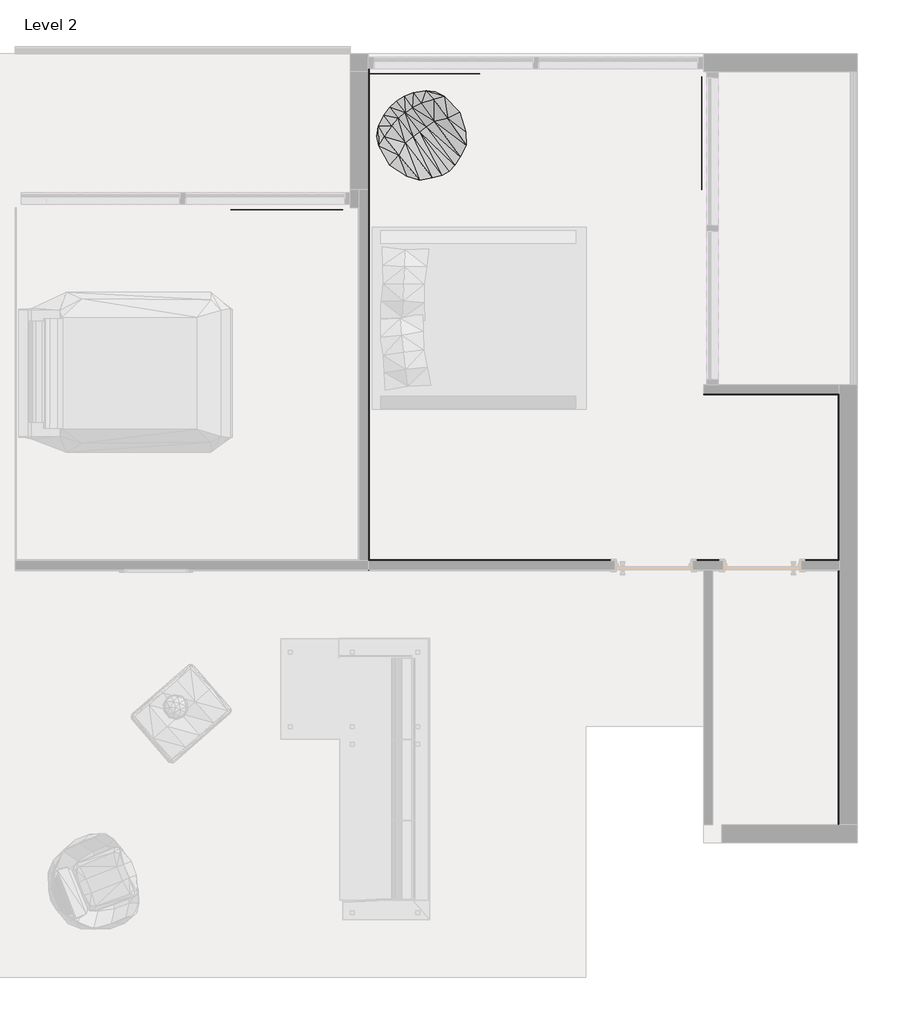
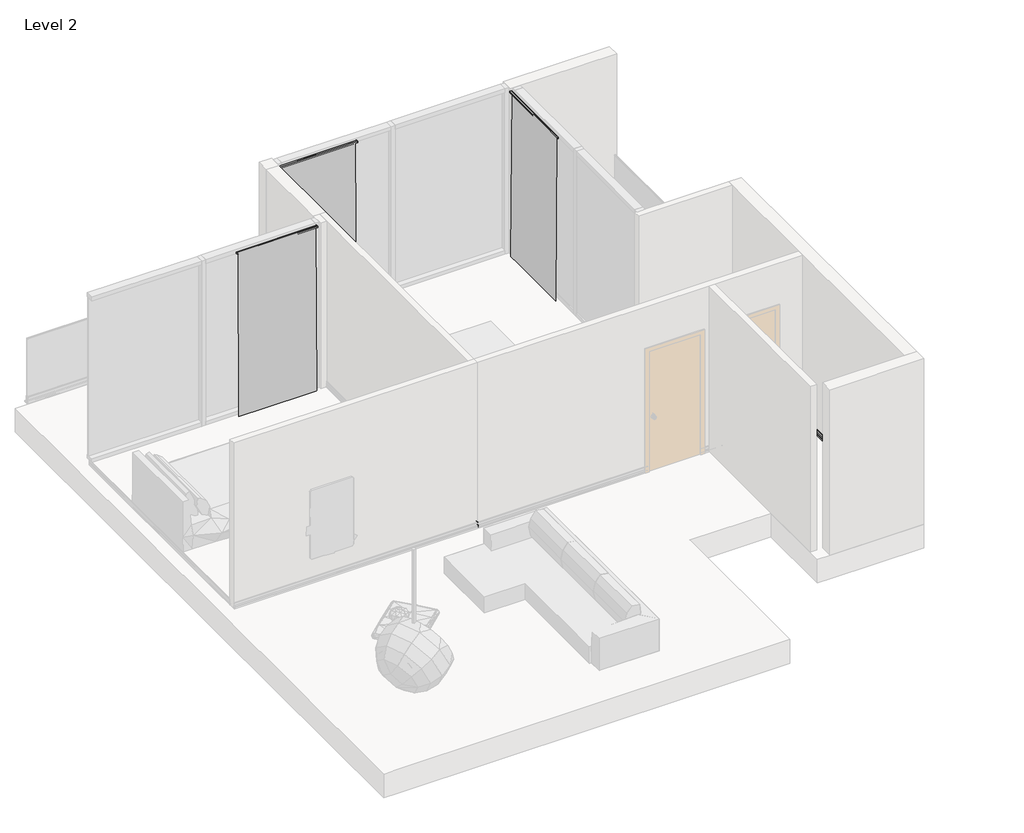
# One storey, part 4 of 4: 4 geographic elements, 1 proxy.
"""IFC4 building model written with IfcOpenShell, lengths in millimetres."""

from ifc_helpers import new_model, si_unit, frame, origin, place, context, project, spatial, polyline, circle_curve, ellipse_curve, transform, mapped, element, save
from ifc_brep_helpers import plane_surface, cylinder_surface, revolved_surface, advanced_brep
from components import enscape_assetdefinition_armchair_040_enscape_assetdefinition_4bf14610, enscape_assetdefinition_curtain_001_enscape_assetdefinition_ad6f74d6

model = new_model("IFC4")

# Units and contexts
model_context = context("Model", 3, world=origin())
ifc_project = project(units=[si_unit("LENGTHUNIT", "METRE", prefix="MILLI")], contexts=[model_context])

# Site, building, storey
site = spatial("IfcSite", under=ifc_project)
building = spatial("IfcBuilding", under=site)
storey = spatial("IfcBuildingStorey", under=building, Name="Level 2", Elevation=4200.0)

# Proxy
placement = place(None, origin())
element("IfcBuildingElementProxy", 1, Name="Brick Soldier Course", ObjectType="Brick Soldier Course", at=placement, inside=storey, context=model_context, shape_type="AdvancedBrep", body=[
    advanced_brep(
    [(20843.1337784, 13166.9206658, 4300.0), (20843.1337784, 13167.9173933, 4300.0), (20843.1337784, 13171.9206658, 4295.9967275), (20843.1337784, 13171.9206658, 4291.4365579), (20843.1337784, 13170.4841079, 4290.0), (20843.1337784, 13169.4089393, 4290.0), (20843.1337784, 13169.4089393, 4250.0), (20843.1337784, 13172.9089393, 4250.0), (20843.1337784, 13174.4089393, 4248.5), (20843.1337784, 13174.4089393, 4226.451226), (20843.1337784, 13172.9577133, 4225.0), (20843.1337784, 13171.9206658, 4225.0), (20843.1337784, 13171.9206658, 4217.9313406), (20843.1337784, 13173.1881701, 4217.9313406), (20843.1337784, 13174.5529179, 4216.7363778), (20843.1337784, 13180.0484939, 4200.0), (20843.1337784, 13166.9206658, 4200.0), (23561.3337784, 13166.9206658, 4300.0), (23561.3337784, 13166.9206658, 4200.0), (23561.3337784, 13180.0484939, 4200.0), (23561.3337784, 13174.5529179, 4216.7363778), (23561.3337784, 13173.1881701, 4217.9313406), (23561.3337784, 13171.9206658, 4217.9313406), (23561.3337784, 13171.9206658, 4225.0), (23561.3337784, 13172.9577133, 4225.0), (23561.3337784, 13174.4089393, 4226.451226), (23561.3337784, 13174.4089393, 4248.5), (23561.3337784, 13172.9089393, 4250.0), (23561.3337784, 13169.4089393, 4250.0), (23561.3337784, 13169.4089393, 4290.0), (23561.3337784, 13170.4841079, 4290.0), (23561.3337784, 13171.9206658, 4291.4365579), (23561.3337784, 13171.9206658, 4295.9967275), (23561.3337784, 13167.9173933, 4300.0)],
    [
        (0, 1),
        (1, 2, circle_curve(frame((20843.1337784, 13167.9173933, 4295.9967275), z_axis=(-1.0, 0.0, 0.0), x_axis=(0.0, 1.0, 0.0)), 4.0032725)),
        (2, 3),
        (3, 4, circle_curve(frame((20843.1337784, 13170.4841079, 4291.4365579), z_axis=(-1.0, 0.0, 0.0), x_axis=(0.0, 1.0, 0.0)), 1.4365579)),
        (4, 5),
        (5, 6),
        (6, 7),
        (7, 8, circle_curve(frame((20843.1337784, 13172.9089393, 4248.5), z_axis=(-1.0, 0.0, 0.0), x_axis=(0.0, 1.0, 0.0)), 1.5)),
        (8, 9),
        (9, 10, circle_curve(frame((20843.1337784, 13172.9577133, 4226.451226), z_axis=(-1.0, 0.0, 0.0), x_axis=(0.0, 1.0, 0.0)), 1.451226)),
        (10, 11),
        (11, 12),
        (12, 13),
        (13, 14, circle_curve(frame((20843.1337784, 13173.1881701, 4216.554531), z_axis=(-1.0, 0.0, 0.0), x_axis=(0.0, 1.0, 0.0)), 1.3768096)),
        (14, 15, circle_curve(frame((20843.1337784, 13222.0655829, 4223.0672348), z_axis=(1.0, 0.0, 0.0), x_axis=(0.0, 1.0, 0.0)), 47.932589)),
        (15, 16),
        (16, 0),
        (17, 18),
        (18, 19),
        (19, 20, circle_curve(frame((23561.3337784, 13222.0655829, 4223.0672348), z_axis=(-1.0, 0.0, 0.0), x_axis=(0.0, 1.0, 0.0)), 47.932589)),
        (20, 21, circle_curve(frame((23561.3337784, 13173.1881701, 4216.554531), z_axis=(1.0, 0.0, 0.0), x_axis=(0.0, 1.0, 0.0)), 1.3768096)),
        (21, 22),
        (22, 23),
        (23, 24),
        (24, 25, circle_curve(frame((23561.3337784, 13172.9577133, 4226.451226), z_axis=(1.0, 0.0, 0.0), x_axis=(0.0, 1.0, 0.0)), 1.451226)),
        (25, 26),
        (26, 27, circle_curve(frame((23561.3337784, 13172.9089393, 4248.5), z_axis=(1.0, 0.0, 0.0), x_axis=(0.0, 1.0, 0.0)), 1.5)),
        (27, 28),
        (28, 29),
        (29, 30),
        (30, 31, circle_curve(frame((23561.3337784, 13170.4841079, 4291.4365579), z_axis=(1.0, 0.0, 0.0), x_axis=(0.0, 1.0, 0.0)), 1.4365579)),
        (31, 32),
        (32, 33, circle_curve(frame((23561.3337784, 13167.9173933, 4295.9967275), z_axis=(1.0, 0.0, 0.0), x_axis=(0.0, 1.0, 0.0)), 4.0032725)),
        (33, 17),
        (0, 17),
        (33, 1),
        (32, 2),
        (31, 3),
        (30, 4),
        (29, 5),
        (28, 6),
        (27, 7),
        (26, 8),
        (25, 9),
        (24, 10),
        (23, 11),
        (22, 12),
        (21, 13),
        (20, 14),
        (19, 15),
        (18, 16),
    ],
    [
        plane_surface(frame((20843.1337784, 13166.9206658, 4099.9950328), z_axis=(-1.0, 0.0, 0.0), x_axis=(0.0, 1.0, 0.0))),
        plane_surface(frame((23561.3337784, 13166.9206658, 4099.9950328), z_axis=(1.0, 0.0, 0.0), x_axis=(0.0, 1.0, 0.0))),
        plane_surface(frame((20843.1337784, 13166.9206658, 4300.0), z_axis=(0.0, 0.0, 1.0), x_axis=(1.0, 0.0, 0.0))),
        cylinder_surface(frame((20843.1337784, 13167.9173933, 4295.9967275), z_axis=(-1.0, 0.0, 0.0), x_axis=(0.0, 1.0, 0.0)), 4.0032725),
        plane_surface(frame((20843.1337784, 13171.9206658, 4295.9967275), z_axis=(0.0, 1.0, 0.0), x_axis=(1.0, 0.0, 0.0))),
        cylinder_surface(frame((20843.1337784, 13170.4841079, 4291.4365579), z_axis=(-1.0, 0.0, 0.0), x_axis=(0.0, 1.0, 0.0)), 1.4365579),
        plane_surface(frame((20843.1337784, 13170.4841079, 4290.0), z_axis=(0.0, 0.0, -1.0), x_axis=(1.0, 0.0, 0.0))),
        plane_surface(frame((20843.1337784, 13169.4089393, 4290.0), z_axis=(0.0, 1.0, 0.0), x_axis=(1.0, 0.0, 0.0))),
        plane_surface(frame((20843.1337784, 13169.4089393, 4250.0), z_axis=(0.0, 0.0, 1.0), x_axis=(1.0, 0.0, 0.0))),
        cylinder_surface(frame((20843.1337784, 13172.9089393, 4248.5), z_axis=(-1.0, 0.0, 0.0), x_axis=(0.0, 1.0, 0.0)), 1.5),
        plane_surface(frame((20843.1337784, 13174.4089393, 4248.5), z_axis=(0.0, 1.0, 0.0), x_axis=(1.0, 0.0, 0.0))),
        cylinder_surface(frame((20843.1337784, 13172.9577133, 4226.451226), z_axis=(-1.0, 0.0, 0.0), x_axis=(0.0, 1.0, 0.0)), 1.451226),
        plane_surface(frame((20843.1337784, 13172.9577133, 4225.0), z_axis=(0.0, 0.0, -1.0), x_axis=(1.0, 0.0, 0.0))),
        plane_surface(frame((20843.1337784, 13171.9206658, 4225.0), z_axis=(0.0, 1.0, 0.0), x_axis=(1.0, 0.0, 0.0))),
        plane_surface(frame((20843.1337784, 13171.9206658, 4217.9313406), z_axis=(0.0, 0.0, 1.0), x_axis=(1.0, 0.0, 0.0))),
        cylinder_surface(frame((20843.1337784, 13173.1881701, 4216.554531), z_axis=(-1.0, 0.0, 0.0), x_axis=(0.0, 1.0, 0.0)), 1.3768096),
        revolved_surface(polyline([(23561.3337784, 13269.9981719, 4223.0672348), (20843.1337784, 13269.9981719, 4223.0672348)]), (20843.1337784, 13222.0655829, 4223.0672348), (1.0, 0.0, 0.0)),
        plane_surface(frame((20843.1337784, 13180.0484939, 4200.0), z_axis=(0.0, 0.0, -1.0), x_axis=(1.0, 0.0, 0.0))),
        plane_surface(frame((20843.1337784, 13166.9206658, 4200.0), z_axis=(0.0, -1.0, 0.0), x_axis=(1.0, 0.0, 0.0))),
    ],
    [
        (0, [[1, 2, 3, 4, 5, 6, 7, 8, 9, 10, 11, 12, 13, 14, 15, 16, 17]]),
        (1, [[18, 19, 20, 21, 22, 23, 24, 25, 26, 27, 28, 29, 30, 31, 32, 33, 34]]),
        (2, [[-1, 35, -34, 36]]),
        (3, [[-2, -36, -33, 37]]),
        (4, [[-3, -37, -32, 38]]),
        (5, [[-4, -38, -31, 39]]),
        (6, [[-5, -39, -30, 40]]),
        (7, [[-6, -40, -29, 41]]),
        (8, [[-7, -41, -28, 42]]),
        (9, [[-8, -42, -27, 43]]),
        (10, [[-9, -43, -26, 44]]),
        (11, [[-10, -44, -25, 45]]),
        (12, [[-11, -45, -24, 46]]),
        (13, [[-12, -46, -23, 47]]),
        (14, [[-13, -47, -22, 48]]),
        (15, [[-14, -48, -21, 49]]),
        (16, [[-15, -49, -20, 50]]),
        (17, [[-16, -50, -19, 51]]),
        (18, [[-17, -51, -18, -35]]),
    ],
),
    advanced_brep(
    [(24424.9337784, 13166.9206658, 4300.0), (24424.9337784, 13167.9173933, 4300.0), (24424.9337784, 13171.9206658, 4295.9967275), (24424.9337784, 13171.9206658, 4291.4365579), (24424.9337784, 13170.4841079, 4290.0), (24424.9337784, 13169.4089393, 4290.0), (24424.9337784, 13169.4089393, 4250.0), (24424.9337784, 13172.9089393, 4250.0), (24424.9337784, 13174.4089393, 4248.5), (24424.9337784, 13174.4089393, 4226.451226), (24424.9337784, 13172.9577133, 4225.0), (24424.9337784, 13171.9206658, 4225.0), (24424.9337784, 13171.9206658, 4217.9313406), (24424.9337784, 13173.1881701, 4217.9313406), (24424.9337784, 13174.5529179, 4216.7363778), (24424.9337784, 13180.0484939, 4200.0), (24424.9337784, 13166.9206658, 4200.0), (24761.3337784, 13166.9206658, 4300.0), (24761.3337784, 13166.9206658, 4200.0), (24761.3337784, 13180.0484939, 4200.0), (24761.3337784, 13174.5529179, 4216.7363778), (24761.3337784, 13173.1881701, 4217.9313406), (24761.3337784, 13171.9206658, 4217.9313406), (24761.3337784, 13171.9206658, 4225.0), (24761.3337784, 13172.9577133, 4225.0), (24761.3337784, 13174.4089393, 4226.451226), (24761.3337784, 13174.4089393, 4248.5), (24761.3337784, 13172.9089393, 4250.0), (24761.3337784, 13169.4089393, 4250.0), (24761.3337784, 13169.4089393, 4290.0), (24761.3337784, 13170.4841079, 4290.0), (24761.3337784, 13171.9206658, 4291.4365579), (24761.3337784, 13171.9206658, 4295.9967275), (24761.3337784, 13167.9173933, 4300.0)],
    [
        (0, 1),
        (1, 2, circle_curve(frame((24424.9337784, 13167.9173933, 4295.9967275), z_axis=(-1.0, 0.0, 0.0), x_axis=(0.0, 1.0, 0.0)), 4.0032725)),
        (2, 3),
        (3, 4, circle_curve(frame((24424.9337784, 13170.4841079, 4291.4365579), z_axis=(-1.0, 0.0, 0.0), x_axis=(0.0, 1.0, 0.0)), 1.4365579)),
        (4, 5),
        (5, 6),
        (6, 7),
        (7, 8, circle_curve(frame((24424.9337784, 13172.9089393, 4248.5), z_axis=(-1.0, 0.0, 0.0), x_axis=(0.0, 1.0, 0.0)), 1.5)),
        (8, 9),
        (9, 10, circle_curve(frame((24424.9337784, 13172.9577133, 4226.451226), z_axis=(-1.0, 0.0, 0.0), x_axis=(0.0, 1.0, 0.0)), 1.451226)),
        (10, 11),
        (11, 12),
        (12, 13),
        (13, 14, circle_curve(frame((24424.9337784, 13173.1881701, 4216.554531), z_axis=(-1.0, 0.0, 0.0), x_axis=(0.0, 1.0, 0.0)), 1.3768096)),
        (14, 15, circle_curve(frame((24424.9337784, 13222.0655829, 4223.0672348), z_axis=(1.0, 0.0, 0.0), x_axis=(0.0, 1.0, 0.0)), 47.932589)),
        (15, 16),
        (16, 0),
        (17, 18),
        (18, 19),
        (19, 20, circle_curve(frame((24761.3337784, 13222.0655829, 4223.0672348), z_axis=(-1.0, 0.0, 0.0), x_axis=(0.0, 1.0, 0.0)), 47.932589)),
        (20, 21, circle_curve(frame((24761.3337784, 13173.1881701, 4216.554531), z_axis=(1.0, 0.0, 0.0), x_axis=(0.0, 1.0, 0.0)), 1.3768096)),
        (21, 22),
        (22, 23),
        (23, 24),
        (24, 25, circle_curve(frame((24761.3337784, 13172.9577133, 4226.451226), z_axis=(1.0, 0.0, 0.0), x_axis=(0.0, 1.0, 0.0)), 1.451226)),
        (25, 26),
        (26, 27, circle_curve(frame((24761.3337784, 13172.9089393, 4248.5), z_axis=(1.0, 0.0, 0.0), x_axis=(0.0, 1.0, 0.0)), 1.5)),
        (27, 28),
        (28, 29),
        (29, 30),
        (30, 31, circle_curve(frame((24761.3337784, 13170.4841079, 4291.4365579), z_axis=(1.0, 0.0, 0.0), x_axis=(0.0, 1.0, 0.0)), 1.4365579)),
        (31, 32),
        (32, 33, circle_curve(frame((24761.3337784, 13167.9173933, 4295.9967275), z_axis=(1.0, 0.0, 0.0), x_axis=(0.0, 1.0, 0.0)), 4.0032725)),
        (33, 17),
        (0, 17),
        (33, 1),
        (32, 2),
        (31, 3),
        (30, 4),
        (29, 5),
        (28, 6),
        (27, 7),
        (26, 8),
        (25, 9),
        (24, 10),
        (23, 11),
        (22, 12),
        (21, 13),
        (20, 14),
        (19, 15),
        (18, 16),
    ],
    [
        plane_surface(frame((24424.9337784, 13166.9206658, 4099.9950328), z_axis=(-1.0, 0.0, 0.0), x_axis=(0.0, 1.0, 0.0))),
        plane_surface(frame((24761.3337784, 13166.9206658, 4099.9950328), z_axis=(1.0, 0.0, 0.0), x_axis=(0.0, 1.0, 0.0))),
        plane_surface(frame((24424.9337784, 13166.9206658, 4300.0), z_axis=(0.0, 0.0, 1.0), x_axis=(1.0, 0.0, 0.0))),
        cylinder_surface(frame((24424.9337784, 13167.9173933, 4295.9967275), z_axis=(-1.0, 0.0, 0.0), x_axis=(0.0, 1.0, 0.0)), 4.0032725),
        plane_surface(frame((24424.9337784, 13171.9206658, 4295.9967275), z_axis=(0.0, 1.0, 0.0), x_axis=(1.0, 0.0, 0.0))),
        cylinder_surface(frame((24424.9337784, 13170.4841079, 4291.4365579), z_axis=(-1.0, 0.0, 0.0), x_axis=(0.0, 1.0, 0.0)), 1.4365579),
        plane_surface(frame((24424.9337784, 13170.4841079, 4290.0), z_axis=(0.0, 0.0, -1.0), x_axis=(1.0, 0.0, 0.0))),
        plane_surface(frame((24424.9337784, 13169.4089393, 4290.0), z_axis=(0.0, 1.0, 0.0), x_axis=(1.0, 0.0, 0.0))),
        plane_surface(frame((24424.9337784, 13169.4089393, 4250.0), z_axis=(0.0, 0.0, 1.0), x_axis=(1.0, 0.0, 0.0))),
        cylinder_surface(frame((24424.9337784, 13172.9089393, 4248.5), z_axis=(-1.0, 0.0, 0.0), x_axis=(0.0, 1.0, 0.0)), 1.5),
        plane_surface(frame((24424.9337784, 13174.4089393, 4248.5), z_axis=(0.0, 1.0, 0.0), x_axis=(1.0, 0.0, 0.0))),
        cylinder_surface(frame((24424.9337784, 13172.9577133, 4226.451226), z_axis=(-1.0, 0.0, 0.0), x_axis=(0.0, 1.0, 0.0)), 1.451226),
        plane_surface(frame((24424.9337784, 13172.9577133, 4225.0), z_axis=(0.0, 0.0, -1.0), x_axis=(1.0, 0.0, 0.0))),
        plane_surface(frame((24424.9337784, 13171.9206658, 4225.0), z_axis=(0.0, 1.0, 0.0), x_axis=(1.0, 0.0, 0.0))),
        plane_surface(frame((24424.9337784, 13171.9206658, 4217.9313406), z_axis=(0.0, 0.0, 1.0), x_axis=(1.0, 0.0, 0.0))),
        cylinder_surface(frame((24424.9337784, 13173.1881701, 4216.554531), z_axis=(-1.0, 0.0, 0.0), x_axis=(0.0, 1.0, 0.0)), 1.3768096),
        revolved_surface(polyline([(24761.3337784, 13269.9981719, 4223.0672348), (24424.9337784, 13269.9981719, 4223.0672348)]), (24424.9337784, 13222.0655829, 4223.0672348), (1.0, 0.0, 0.0)),
        plane_surface(frame((24424.9337784, 13180.0484939, 4200.0), z_axis=(0.0, 0.0, -1.0), x_axis=(1.0, 0.0, 0.0))),
        plane_surface(frame((24424.9337784, 13166.9206658, 4200.0), z_axis=(0.0, -1.0, 0.0), x_axis=(1.0, 0.0, 0.0))),
    ],
    [
        (0, [[1, 2, 3, 4, 5, 6, 7, 8, 9, 10, 11, 12, 13, 14, 15, 16, 17]]),
        (1, [[18, 19, 20, 21, 22, 23, 24, 25, 26, 27, 28, 29, 30, 31, 32, 33, 34]]),
        (2, [[-1, 35, -34, 36]]),
        (3, [[-2, -36, -33, 37]]),
        (4, [[-3, -37, -32, 38]]),
        (5, [[-4, -38, -31, 39]]),
        (6, [[-5, -39, -30, 40]]),
        (7, [[-6, -40, -29, 41]]),
        (8, [[-7, -41, -28, 42]]),
        (9, [[-8, -42, -27, 43]]),
        (10, [[-9, -43, -26, 44]]),
        (11, [[-10, -44, -25, 45]]),
        (12, [[-11, -45, -24, 46]]),
        (13, [[-12, -46, -23, 47]]),
        (14, [[-13, -47, -22, 48]]),
        (15, [[-14, -48, -21, 49]]),
        (16, [[-15, -49, -20, 50]]),
        (17, [[-16, -50, -19, 51]]),
        (18, [[-17, -51, -18, -35]]),
    ],
),
    advanced_brep(
    [(25624.9337784, 13166.9206658, 4300.0), (25624.9337784, 13167.9173933, 4300.0), (25624.9337784, 13171.9206658, 4295.9967275), (25624.9337784, 13171.9206658, 4291.4365579), (25624.9337784, 13170.4841079, 4290.0), (25624.9337784, 13169.4089393, 4290.0), (25624.9337784, 13169.4089393, 4250.0), (25624.9337784, 13172.9089393, 4250.0), (25624.9337784, 13174.4089393, 4248.5), (25624.9337784, 13174.4089393, 4226.451226), (25624.9337784, 13172.9577133, 4225.0), (25624.9337784, 13171.9206658, 4225.0), (25624.9337784, 13171.9206658, 4217.9313406), (25624.9337784, 13173.1881701, 4217.9313406), (25624.9337784, 13174.5529179, 4216.7363778), (25624.9337784, 13180.0484939, 4200.0), (25624.9337784, 13166.9206658, 4200.0), (26043.1337784, 13166.9206658, 4300.0), (26043.1337784, 13166.9206658, 4200.0), (26043.1337784, 13180.0484939, 4200.0), (26043.1337784, 13174.5529179, 4216.7363778), (26043.1337784, 13173.1881701, 4217.9313406), (26043.1337784, 13171.9206658, 4217.9313406), (26043.1337784, 13171.9206658, 4225.0), (26043.1337784, 13172.9577133, 4225.0), (26043.1337784, 13174.4089393, 4226.451226), (26043.1337784, 13174.4089393, 4248.5), (26043.1337784, 13172.9089393, 4250.0), (26043.1337784, 13169.4089393, 4250.0), (26043.1337784, 13169.4089393, 4290.0), (26043.1337784, 13170.4841079, 4290.0), (26043.1337784, 13171.9206658, 4291.4365579), (26043.1337784, 13171.9206658, 4295.9967275), (26043.1337784, 13167.9173933, 4300.0)],
    [
        (0, 1),
        (1, 2, circle_curve(frame((25624.9337784, 13167.9173933, 4295.9967275), z_axis=(-1.0, 0.0, 0.0), x_axis=(0.0, 1.0, 0.0)), 4.0032725)),
        (2, 3),
        (3, 4, circle_curve(frame((25624.9337784, 13170.4841079, 4291.4365579), z_axis=(-1.0, 0.0, 0.0), x_axis=(0.0, 1.0, 0.0)), 1.4365579)),
        (4, 5),
        (5, 6),
        (6, 7),
        (7, 8, circle_curve(frame((25624.9337784, 13172.9089393, 4248.5), z_axis=(-1.0, 0.0, 0.0), x_axis=(0.0, 1.0, 0.0)), 1.5)),
        (8, 9),
        (9, 10, circle_curve(frame((25624.9337784, 13172.9577133, 4226.451226), z_axis=(-1.0, 0.0, 0.0), x_axis=(0.0, 1.0, 0.0)), 1.451226)),
        (10, 11),
        (11, 12),
        (12, 13),
        (13, 14, circle_curve(frame((25624.9337784, 13173.1881701, 4216.554531), z_axis=(-1.0, 0.0, 0.0), x_axis=(0.0, 1.0, 0.0)), 1.3768096)),
        (14, 15, circle_curve(frame((25624.9337784, 13222.0655829, 4223.0672348), z_axis=(1.0, 0.0, 0.0), x_axis=(0.0, 1.0, 0.0)), 47.932589)),
        (15, 16),
        (16, 0),
        (17, 18),
        (18, 19),
        (19, 20, circle_curve(frame((26043.1337784, 13222.0655829, 4223.0672348), z_axis=(-1.0, 0.0, 0.0), x_axis=(0.0, 1.0, 0.0)), 47.932589)),
        (20, 21, circle_curve(frame((26043.1337784, 13173.1881701, 4216.554531), z_axis=(1.0, 0.0, 0.0), x_axis=(0.0, 1.0, 0.0)), 1.3768096)),
        (21, 22),
        (22, 23),
        (23, 24),
        (24, 25, circle_curve(frame((26043.1337784, 13172.9577133, 4226.451226), z_axis=(1.0, 0.0, 0.0), x_axis=(0.0, 1.0, 0.0)), 1.451226)),
        (25, 26),
        (26, 27, circle_curve(frame((26043.1337784, 13172.9089393, 4248.5), z_axis=(1.0, 0.0, 0.0), x_axis=(0.0, 1.0, 0.0)), 1.5)),
        (27, 28),
        (28, 29),
        (29, 30),
        (30, 31, circle_curve(frame((26043.1337784, 13170.4841079, 4291.4365579), z_axis=(1.0, 0.0, 0.0), x_axis=(0.0, 1.0, 0.0)), 1.4365579)),
        (31, 32),
        (32, 33, circle_curve(frame((26043.1337784, 13167.9173933, 4295.9967275), z_axis=(1.0, 0.0, 0.0), x_axis=(0.0, 1.0, 0.0)), 4.0032725)),
        (33, 17),
        (0, 17),
        (33, 1),
        (32, 2),
        (31, 3),
        (30, 4),
        (29, 5),
        (28, 6),
        (27, 7),
        (26, 8),
        (25, 9),
        (24, 10),
        (23, 11),
        (22, 12),
        (21, 13),
        (20, 14),
        (19, 15),
        (18, 16),
    ],
    [
        plane_surface(frame((25624.9337784, 13166.9206658, 4099.9950328), z_axis=(-1.0, 0.0, 0.0), x_axis=(0.0, 1.0, 0.0))),
        plane_surface(frame((26043.1337784, 13166.9206658, 4099.9950328), z_axis=(1.0, 0.0, 0.0), x_axis=(0.0, 1.0, 0.0))),
        plane_surface(frame((25624.9337784, 13166.9206658, 4300.0), z_axis=(0.0, 0.0, 1.0), x_axis=(1.0, 0.0, 0.0))),
        cylinder_surface(frame((25624.9337784, 13167.9173933, 4295.9967275), z_axis=(-1.0, 0.0, 0.0), x_axis=(0.0, 1.0, 0.0)), 4.0032725),
        plane_surface(frame((25624.9337784, 13171.9206658, 4295.9967275), z_axis=(0.0, 1.0, 0.0), x_axis=(1.0, 0.0, 0.0))),
        cylinder_surface(frame((25624.9337784, 13170.4841079, 4291.4365579), z_axis=(-1.0, 0.0, 0.0), x_axis=(0.0, 1.0, 0.0)), 1.4365579),
        plane_surface(frame((25624.9337784, 13170.4841079, 4290.0), z_axis=(0.0, 0.0, -1.0), x_axis=(1.0, 0.0, 0.0))),
        plane_surface(frame((25624.9337784, 13169.4089393, 4290.0), z_axis=(0.0, 1.0, 0.0), x_axis=(1.0, 0.0, 0.0))),
        plane_surface(frame((25624.9337784, 13169.4089393, 4250.0), z_axis=(0.0, 0.0, 1.0), x_axis=(1.0, 0.0, 0.0))),
        cylinder_surface(frame((25624.9337784, 13172.9089393, 4248.5), z_axis=(-1.0, 0.0, 0.0), x_axis=(0.0, 1.0, 0.0)), 1.5),
        plane_surface(frame((25624.9337784, 13174.4089393, 4248.5), z_axis=(0.0, 1.0, 0.0), x_axis=(1.0, 0.0, 0.0))),
        cylinder_surface(frame((25624.9337784, 13172.9577133, 4226.451226), z_axis=(-1.0, 0.0, 0.0), x_axis=(0.0, 1.0, 0.0)), 1.451226),
        plane_surface(frame((25624.9337784, 13172.9577133, 4225.0), z_axis=(0.0, 0.0, -1.0), x_axis=(1.0, 0.0, 0.0))),
        plane_surface(frame((25624.9337784, 13171.9206658, 4225.0), z_axis=(0.0, 1.0, 0.0), x_axis=(1.0, 0.0, 0.0))),
        plane_surface(frame((25624.9337784, 13171.9206658, 4217.9313406), z_axis=(0.0, 0.0, 1.0), x_axis=(1.0, 0.0, 0.0))),
        cylinder_surface(frame((25624.9337784, 13173.1881701, 4216.554531), z_axis=(-1.0, 0.0, 0.0), x_axis=(0.0, 1.0, 0.0)), 1.3768096),
        revolved_surface(polyline([(26043.1337784, 13269.9981719, 4223.0672348), (25624.9337784, 13269.9981719, 4223.0672348)]), (25624.9337784, 13222.0655829, 4223.0672348), (1.0, 0.0, 0.0)),
        plane_surface(frame((25624.9337784, 13180.0484939, 4200.0), z_axis=(0.0, 0.0, -1.0), x_axis=(1.0, 0.0, 0.0))),
        plane_surface(frame((25624.9337784, 13166.9206658, 4200.0), z_axis=(0.0, -1.0, 0.0), x_axis=(1.0, 0.0, 0.0))),
    ],
    [
        (0, [[1, 2, 3, 4, 5, 6, 7, 8, 9, 10, 11, 12, 13, 14, 15, 16, 17]]),
        (1, [[18, 19, 20, 21, 22, 23, 24, 25, 26, 27, 28, 29, 30, 31, 32, 33, 34]]),
        (2, [[-1, 35, -34, 36]]),
        (3, [[-2, -36, -33, 37]]),
        (4, [[-3, -37, -32, 38]]),
        (5, [[-4, -38, -31, 39]]),
        (6, [[-5, -39, -30, 40]]),
        (7, [[-6, -40, -29, 41]]),
        (8, [[-7, -41, -28, 42]]),
        (9, [[-8, -42, -27, 43]]),
        (10, [[-9, -43, -26, 44]]),
        (11, [[-10, -44, -25, 45]]),
        (12, [[-11, -45, -24, 46]]),
        (13, [[-12, -46, -23, 47]]),
        (14, [[-13, -47, -22, 48]]),
        (15, [[-14, -48, -21, 49]]),
        (16, [[-15, -49, -20, 50]]),
        (17, [[-16, -50, -19, 51]]),
        (18, [[-17, -51, -18, -35]]),
    ],
),
    advanced_brep(
    [(20843.1337784, 13066.9206658, 4300.0), (20843.1337784, 13066.9206658, 4200.0), (20856.2616065, 13053.7928378, 4200.0), (20850.7660304, 13059.2884138, 4216.7363778), (20849.4012827, 13060.6531616, 4217.9313406), (20848.1337784, 13061.9206658, 4217.9313406), (20848.1337784, 13061.9206658, 4225.0), (20849.1708258, 13060.8836184, 4225.0), (20850.6220518, 13059.4323924, 4226.451226), (20850.6220518, 13059.4323924, 4248.5), (20849.1220518, 13060.9323924, 4250.0), (20845.6220518, 13064.4323924, 4250.0), (20845.6220518, 13064.4323924, 4290.0), (20846.6972204, 13063.3572238, 4290.0), (20848.1337784, 13061.9206658, 4291.4365579), (20848.1337784, 13061.9206658, 4295.9967275), (20844.1305058, 13065.9239384, 4300.0), (20843.1337784, 18603.4206658, 4300.0), (20844.1305058, 18603.4206658, 4300.0), (20848.1337784, 18603.4206658, 4295.9967275), (20848.1337784, 18603.4206658, 4291.4365579), (20846.6972204, 18603.4206658, 4290.0), (20845.6220518, 18603.4206658, 4290.0), (20845.6220518, 18603.4206658, 4250.0), (20849.1220518, 18603.4206658, 4250.0), (20850.6220518, 18603.4206658, 4248.5), (20850.6220518, 18603.4206658, 4226.451226), (20849.1708258, 18603.4206658, 4225.0), (20848.1337784, 18603.4206658, 4225.0), (20848.1337784, 18603.4206658, 4217.9313406), (20849.4012827, 18603.4206658, 4217.9313406), (20850.7660304, 18603.4206658, 4216.7363778), (20856.2616065, 18603.4206658, 4200.0), (20843.1337784, 18603.4206658, 4200.0)],
    [
        (0, 1),
        (1, 2),
        (2, 3, ellipse_curve(frame((20898.2786954, 13011.7757488, 4223.0672348), z_axis=(0.7071067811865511, 0.707106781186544, 0.0), x_axis=(-0.707106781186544, 0.707106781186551, 0.0)), 67.7869174, 47.932589)),
        (3, 4, ellipse_curve(frame((20849.4012827, 13060.6531616, 4216.554531), z_axis=(-0.7071067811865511, -0.707106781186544, 0.0), x_axis=(0.707106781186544, -0.707106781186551, 0.0)), 1.9471028, 1.3768096)),
        (4, 5),
        (5, 6),
        (6, 7),
        (7, 8, ellipse_curve(frame((20849.1708258, 13060.8836184, 4226.451226), z_axis=(-0.7071067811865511, -0.707106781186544, 0.0), x_axis=(0.707106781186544, -0.707106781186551, 0.0)), 2.0523435, 1.451226)),
        (8, 9),
        (9, 10, ellipse_curve(frame((20849.1220518, 13060.9323924, 4248.5), z_axis=(-0.7071067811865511, -0.707106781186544, 0.0), x_axis=(0.707106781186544, -0.707106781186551, 0.0)), 2.1213203, 1.5)),
        (10, 11),
        (11, 12),
        (12, 13),
        (13, 14, ellipse_curve(frame((20846.6972204, 13063.3572238, 4291.4365579), z_axis=(-0.7071067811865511, -0.707106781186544, 0.0), x_axis=(0.707106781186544, -0.707106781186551, 0.0)), 2.0315997, 1.4365579)),
        (14, 15),
        (15, 16, ellipse_curve(frame((20844.1305058, 13065.9239384, 4295.9967275), z_axis=(-0.7071067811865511, -0.707106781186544, 0.0), x_axis=(0.707106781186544, -0.707106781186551, 0.0)), 5.6614823, 4.0032725)),
        (16, 0),
        (17, 18),
        (18, 19, circle_curve(frame((20844.1305058, 18603.4206658, 4295.9967275), z_axis=(0.0, 1.0, 0.0), x_axis=(1.0, 0.0, 0.0)), 4.0032725)),
        (19, 20),
        (20, 21, circle_curve(frame((20846.6972204, 18603.4206658, 4291.4365579), z_axis=(0.0, 1.0, 0.0), x_axis=(1.0, 0.0, 0.0)), 1.4365579)),
        (21, 22),
        (22, 23),
        (23, 24),
        (24, 25, circle_curve(frame((20849.1220518, 18603.4206658, 4248.5), z_axis=(0.0, 1.0, 0.0), x_axis=(1.0, 0.0, 0.0)), 1.5)),
        (25, 26),
        (26, 27, circle_curve(frame((20849.1708258, 18603.4206658, 4226.451226), z_axis=(0.0, 1.0, 0.0), x_axis=(1.0, 0.0, 0.0)), 1.451226)),
        (27, 28),
        (28, 29),
        (29, 30),
        (30, 31, circle_curve(frame((20849.4012827, 18603.4206658, 4216.554531), z_axis=(0.0, 1.0, 0.0), x_axis=(1.0, 0.0, 0.0)), 1.3768096)),
        (31, 32, circle_curve(frame((20898.2786954, 18603.4206658, 4223.0672348), z_axis=(0.0, -1.0, 0.0), x_axis=(1.0, 0.0, 0.0)), 47.932589)),
        (32, 33),
        (33, 17),
        (0, 17),
        (33, 1),
        (32, 2),
        (31, 3),
        (30, 4),
        (29, 5),
        (28, 6),
        (27, 7),
        (26, 8),
        (25, 9),
        (24, 10),
        (23, 11),
        (22, 12),
        (21, 13),
        (20, 14),
        (19, 15),
        (18, 16),
    ],
    [
        plane_surface(frame((20843.1337784, 13066.9206658, 3895.2), z_axis=(-0.7071067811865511, -0.707106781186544, 0.0), x_axis=(-0.707106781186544, 0.7071067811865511, 0.0))),
        plane_surface(frame((20743.1288112, 18603.4206658, 4200.0), z_axis=(0.0, 1.0, 0.0), x_axis=(0.0, 0.0, 1.0))),
        plane_surface(frame((20843.1337784, 13066.9206658, 4300.0), z_axis=(-1.0, 0.0, 0.0), x_axis=(0.0, 1.0, 0.0))),
        plane_surface(frame((20843.1337784, 13066.9206658, 4200.0), z_axis=(0.0, 0.0, -1.0), x_axis=(0.0, 1.0, 0.0))),
        revolved_surface(polyline([(20946.2112844, 18603.4206658, 4223.0672348), (20946.2112844, 12963.843159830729, 4223.0672348)]), (20898.2786954, 13066.9206658, 4223.0672348), (0.0, 1.0, 0.0)),
        cylinder_surface(frame((20849.4012827, 13066.9206658, 4216.554531), z_axis=(0.0, -1.0, 0.0), x_axis=(1.0, 0.0, 0.0)), 1.3768096),
        plane_surface(frame((20849.4012827, 13060.6531616, 4217.9313406), z_axis=(0.0, 0.0, 1.0), x_axis=(0.0, 1.0, 0.0))),
        plane_surface(frame((20848.1337784, 13061.9206658, 4217.9313406), z_axis=(1.0, 0.0, 0.0), x_axis=(0.0, 1.0, 0.0))),
        plane_surface(frame((20848.1337784, 13061.9206658, 4225.0), z_axis=(0.0, 0.0, -1.0), x_axis=(0.0, 1.0, 0.0))),
        cylinder_surface(frame((20849.1708258, 13066.9206658, 4226.451226), z_axis=(0.0, -1.0, 0.0), x_axis=(1.0, 0.0, 0.0)), 1.451226),
        plane_surface(frame((20850.6220518, 13059.4323924, 4226.451226), z_axis=(1.0, 0.0, 0.0), x_axis=(0.0, 1.0, 0.0))),
        cylinder_surface(frame((20849.1220518, 13066.9206658, 4248.5), z_axis=(0.0, -1.0, 0.0), x_axis=(1.0, 0.0, 0.0)), 1.5),
        plane_surface(frame((20849.1220518, 13060.9323924, 4250.0), z_axis=(0.0, 0.0, 1.0), x_axis=(0.0, 1.0, 0.0))),
        plane_surface(frame((20845.6220518, 13064.4323924, 4250.0), z_axis=(1.0, 0.0, 0.0), x_axis=(0.0, 1.0, 0.0))),
        plane_surface(frame((20845.6220518, 13064.4323924, 4290.0), z_axis=(0.0, 0.0, -1.0), x_axis=(0.0, 1.0, 0.0))),
        cylinder_surface(frame((20846.6972204, 13066.9206658, 4291.4365579), z_axis=(0.0, -1.0, 0.0), x_axis=(1.0, 0.0, 0.0)), 1.4365579),
        plane_surface(frame((20848.1337784, 13061.9206658, 4291.4365579), z_axis=(1.0, 0.0, 0.0), x_axis=(0.0, 1.0, 0.0))),
        cylinder_surface(frame((20844.1305058, 13066.9206658, 4295.9967275), z_axis=(0.0, -1.0, 0.0), x_axis=(1.0, 0.0, 0.0)), 4.0032725),
        plane_surface(frame((20844.1305058, 13065.9239384, 4300.0), z_axis=(0.0, 0.0, 1.0), x_axis=(0.0, 1.0, 0.0))),
    ],
    [
        (0, [[1, 2, 3, 4, 5, 6, 7, 8, 9, 10, 11, 12, 13, 14, 15, 16, 17]]),
        (1, [[18, 19, 20, 21, 22, 23, 24, 25, 26, 27, 28, 29, 30, 31, 32, 33, 34]]),
        (2, [[-1, 35, -34, 36]]),
        (3, [[-2, -36, -33, 37]]),
        (4, [[-3, -37, -32, 38]]),
        (5, [[-4, -38, -31, 39]]),
        (6, [[-5, -39, -30, 40]]),
        (7, [[-6, -40, -29, 41]]),
        (8, [[-7, -41, -28, 42]]),
        (9, [[-8, -42, -27, 43]]),
        (10, [[-9, -43, -26, 44]]),
        (11, [[-10, -44, -25, 45]]),
        (12, [[-11, -45, -24, 46]]),
        (13, [[-12, -46, -23, 47]]),
        (14, [[-13, -47, -22, 48]]),
        (15, [[-14, -48, -21, 49]]),
        (16, [[-15, -49, -20, 50]]),
        (17, [[-16, -50, -19, 51]]),
        (18, [[-17, -51, -18, -35]]),
    ],
),
    advanced_brep(
    [(26043.1337784, 10254.720421, 4300.0), (26042.1370509, 10254.720421, 4300.0), (26038.1337784, 10254.720421, 4295.9967275), (26038.1337784, 10254.720421, 4291.4365579), (26039.5703363, 10254.720421, 4290.0), (26040.6455049, 10254.720421, 4290.0), (26040.6455049, 10254.720421, 4250.0), (26037.1455049, 10254.720421, 4250.0), (26035.6455049, 10254.720421, 4248.5), (26035.6455049, 10254.720421, 4226.451226), (26037.0967309, 10254.720421, 4225.0), (26038.1337784, 10254.720421, 4225.0), (26038.1337784, 10254.720421, 4217.9313406), (26036.8662741, 10254.720421, 4217.9313406), (26035.5015263, 10254.720421, 4216.7363778), (26030.0059503, 10254.720421, 4200.0), (26043.1337784, 10254.720421, 4200.0), (26043.1337784, 15011.715447, 4300.0), (26043.1337784, 15011.715447, 4200.0), (26030.0059503, 14998.5876189, 4200.0), (26035.5015263, 15004.083195, 4216.7363778), (26036.8662741, 15005.4479427, 4217.9313406), (26038.1337784, 15006.715447, 4217.9313406), (26038.1337784, 15006.715447, 4225.0), (26037.0967309, 15005.6783995, 4225.0), (26035.6455049, 15004.2271736, 4226.451226), (26035.6455049, 15004.2271736, 4248.5), (26037.1455049, 15005.7271736, 4250.0), (26040.6455049, 15009.2271736, 4250.0), (26040.6455049, 15009.2271736, 4290.0), (26039.5703363, 15008.1520049, 4290.0), (26038.1337784, 15006.715447, 4291.4365579), (26038.1337784, 15006.715447, 4295.9967275), (26042.1370509, 15010.7187195, 4300.0)],
    [
        (0, 1),
        (1, 2, circle_curve(frame((26042.1370509, 10254.720421, 4295.9967275), z_axis=(0.0, -1.0, 0.0), x_axis=(-1.0, 0.0, 0.0)), 4.0032725)),
        (2, 3),
        (3, 4, circle_curve(frame((26039.5703363, 10254.720421, 4291.4365579), z_axis=(0.0, -1.0, 0.0), x_axis=(-1.0, 0.0, 0.0)), 1.4365579)),
        (4, 5),
        (5, 6),
        (6, 7),
        (7, 8, circle_curve(frame((26037.1455049, 10254.720421, 4248.5), z_axis=(0.0, -1.0, 0.0), x_axis=(-1.0, 0.0, 0.0)), 1.5)),
        (8, 9),
        (9, 10, circle_curve(frame((26037.0967309, 10254.720421, 4226.451226), z_axis=(0.0, -1.0, 0.0), x_axis=(-1.0, 0.0, 0.0)), 1.451226)),
        (10, 11),
        (11, 12),
        (12, 13),
        (13, 14, circle_curve(frame((26036.8662741, 10254.720421, 4216.554531), z_axis=(0.0, -1.0, 0.0), x_axis=(-1.0, 0.0, 0.0)), 1.3768096)),
        (14, 15, circle_curve(frame((25987.9888613, 10254.720421, 4223.0672348), z_axis=(0.0, 1.0, 0.0), x_axis=(-1.0, 0.0, 0.0)), 47.932589)),
        (15, 16),
        (16, 0),
        (17, 18),
        (18, 19),
        (19, 20, ellipse_curve(frame((25987.9888613, 14956.57053, 4223.0672348), z_axis=(0.707106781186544, -0.7071067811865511, 0.0), x_axis=(0.7071067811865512, 0.7071067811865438, 0.0)), 67.7869174, 47.932589)),
        (20, 21, ellipse_curve(frame((26036.8662741, 15005.4479427, 4216.554531), z_axis=(-0.707106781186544, 0.7071067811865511, 0.0), x_axis=(-0.7071067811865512, -0.7071067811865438, 0.0)), 1.9471028, 1.3768096)),
        (21, 22),
        (22, 23),
        (23, 24),
        (24, 25, ellipse_curve(frame((26037.0967309, 15005.6783995, 4226.451226), z_axis=(-0.707106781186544, 0.7071067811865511, 0.0), x_axis=(-0.7071067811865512, -0.7071067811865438, 0.0)), 2.0523435, 1.451226)),
        (25, 26),
        (26, 27, ellipse_curve(frame((26037.1455049, 15005.7271736, 4248.5), z_axis=(-0.707106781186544, 0.7071067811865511, 0.0), x_axis=(-0.7071067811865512, -0.7071067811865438, 0.0)), 2.1213203, 1.5)),
        (27, 28),
        (28, 29),
        (29, 30),
        (30, 31, ellipse_curve(frame((26039.5703363, 15008.1520049, 4291.4365579), z_axis=(-0.707106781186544, 0.7071067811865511, 0.0), x_axis=(-0.7071067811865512, -0.7071067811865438, 0.0)), 2.0315997, 1.4365579)),
        (31, 32),
        (32, 33, ellipse_curve(frame((26042.1370509, 15010.7187195, 4295.9967275), z_axis=(-0.707106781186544, 0.7071067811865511, 0.0), x_axis=(-0.7071067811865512, -0.7071067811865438, 0.0)), 5.6614823, 4.0032725)),
        (33, 17),
        (0, 17),
        (33, 1),
        (32, 2),
        (31, 3),
        (30, 4),
        (29, 5),
        (28, 6),
        (27, 7),
        (26, 8),
        (25, 9),
        (24, 10),
        (23, 11),
        (22, 12),
        (21, 13),
        (20, 14),
        (19, 15),
        (18, 16),
    ],
    [
        plane_surface(frame((25943.1288112, 10254.720421, 4200.0), z_axis=(0.0, -1.0, 0.0), x_axis=(0.0, 0.0, 1.0))),
        plane_surface(frame((26043.1337784, 15011.715447, 3895.2), z_axis=(-0.707106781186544, 0.7071067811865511, 0.0), x_axis=(-0.7071067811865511, -0.707106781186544, 0.0))),
        plane_surface(frame((26043.1337784, 10254.720421, 4300.0), z_axis=(0.0, 0.0, 1.0), x_axis=(0.0, 1.0, 0.0))),
        cylinder_surface(frame((26042.1370509, 10254.720421, 4295.9967275), z_axis=(0.0, -1.0, 0.0), x_axis=(-1.0, 0.0, 0.0)), 4.0032725),
        plane_surface(frame((26038.1337784, 10254.720421, 4295.9967275), z_axis=(-1.0, 0.0, 0.0), x_axis=(0.0, 1.0, 0.0))),
        cylinder_surface(frame((26039.5703363, 10254.720421, 4291.4365579), z_axis=(0.0, -1.0, 0.0), x_axis=(-1.0, 0.0, 0.0)), 1.4365579),
        plane_surface(frame((26039.5703363, 10254.720421, 4290.0), z_axis=(0.0, 0.0, -1.0), x_axis=(0.0, 1.0, 0.0))),
        plane_surface(frame((26040.6455049, 10254.720421, 4290.0), z_axis=(-1.0, 0.0, 0.0), x_axis=(0.0, 1.0, 0.0))),
        plane_surface(frame((26040.6455049, 10254.720421, 4250.0), z_axis=(0.0, 0.0, 1.0), x_axis=(0.0, 1.0, 0.0))),
        cylinder_surface(frame((26037.1455049, 10254.720421, 4248.5), z_axis=(0.0, -1.0, 0.0), x_axis=(-1.0, 0.0, 0.0)), 1.5),
        plane_surface(frame((26035.6455049, 10254.720421, 4248.5), z_axis=(-1.0, 0.0, 0.0), x_axis=(0.0, 1.0, 0.0))),
        cylinder_surface(frame((26037.0967309, 10254.720421, 4226.451226), z_axis=(0.0, -1.0, 0.0), x_axis=(-1.0, 0.0, 0.0)), 1.451226),
        plane_surface(frame((26037.0967309, 10254.720421, 4225.0), z_axis=(0.0, 0.0, -1.0), x_axis=(0.0, 1.0, 0.0))),
        plane_surface(frame((26038.1337784, 10254.720421, 4225.0), z_axis=(-1.0, 0.0, 0.0), x_axis=(0.0, 1.0, 0.0))),
        plane_surface(frame((26038.1337784, 10254.720421, 4217.9313406), z_axis=(0.0, 0.0, 1.0), x_axis=(0.0, 1.0, 0.0))),
        cylinder_surface(frame((26036.8662741, 10254.720421, 4216.554531), z_axis=(0.0, -1.0, 0.0), x_axis=(-1.0, 0.0, 0.0)), 1.3768096),
        revolved_surface(polyline([(25940.0562723, 15004.503118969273, 4223.0672348), (25940.0562723, 10254.720421, 4223.0672348)]), (25987.9888613, 10254.720421, 4223.0672348), (0.0, 1.0, 0.0)),
        plane_surface(frame((26030.0059503, 10254.720421, 4200.0), z_axis=(0.0, 0.0, -1.0), x_axis=(0.0, 1.0, 0.0))),
        plane_surface(frame((26043.1337784, 10254.720421, 4200.0), z_axis=(1.0, 0.0, 0.0), x_axis=(0.0, 1.0, 0.0))),
    ],
    [
        (0, [[1, 2, 3, 4, 5, 6, 7, 8, 9, 10, 11, 12, 13, 14, 15, 16, 17]]),
        (1, [[18, 19, 20, 21, 22, 23, 24, 25, 26, 27, 28, 29, 30, 31, 32, 33, 34]]),
        (2, [[-1, 35, -34, 36]]),
        (3, [[-2, -36, -33, 37]]),
        (4, [[-3, -37, -32, 38]]),
        (5, [[-4, -38, -31, 39]]),
        (6, [[-5, -39, -30, 40]]),
        (7, [[-6, -40, -29, 41]]),
        (8, [[-7, -41, -28, 42]]),
        (9, [[-8, -42, -27, 43]]),
        (10, [[-9, -43, -26, 44]]),
        (11, [[-10, -44, -25, 45]]),
        (12, [[-11, -45, -24, 46]]),
        (13, [[-12, -46, -23, 47]]),
        (14, [[-13, -47, -22, 48]]),
        (15, [[-14, -48, -21, 49]]),
        (16, [[-15, -49, -20, 50]]),
        (17, [[-16, -50, -19, 51]]),
        (18, [[-17, -51, -18, -35]]),
    ],
),
    advanced_brep(
    [(24543.1337784, 15011.715447, 4300.0), (24543.1337784, 15011.715447, 4200.0), (24543.1337784, 14998.5876189, 4200.0), (24543.1337784, 15004.083195, 4216.7363778), (24543.1337784, 15005.4479427, 4217.9313406), (24543.1337784, 15006.715447, 4217.9313406), (24543.1337784, 15006.715447, 4225.0), (24543.1337784, 15005.6783995, 4225.0), (24543.1337784, 15004.2271736, 4226.451226), (24543.1337784, 15004.2271736, 4248.5), (24543.1337784, 15005.7271736, 4250.0), (24543.1337784, 15009.2271736, 4250.0), (24543.1337784, 15009.2271736, 4290.0), (24543.1337784, 15008.1520049, 4290.0), (24543.1337784, 15006.715447, 4291.4365579), (24543.1337784, 15006.715447, 4295.9967275), (24543.1337784, 15010.7187195, 4300.0), (26043.1337784, 15011.715447, 4300.0), (26042.1370509, 15010.7187195, 4300.0), (26038.1337784, 15006.715447, 4295.9967275), (26038.1337784, 15006.715447, 4291.4365579), (26039.5703363, 15008.1520049, 4290.0), (26040.6455049, 15009.2271736, 4290.0), (26040.6455049, 15009.2271736, 4250.0), (26037.1455049, 15005.7271736, 4250.0), (26035.6455049, 15004.2271736, 4248.5), (26035.6455049, 15004.2271736, 4226.451226), (26037.0967309, 15005.6783995, 4225.0), (26038.1337784, 15006.715447, 4225.0), (26038.1337784, 15006.715447, 4217.9313406), (26036.8662741, 15005.4479427, 4217.9313406), (26035.5015263, 15004.083195, 4216.7363778), (26030.0059503, 14998.5876189, 4200.0), (26043.1337784, 15011.715447, 4200.0)],
    [
        (0, 1),
        (1, 2),
        (2, 3, circle_curve(frame((24543.1337784, 14956.57053, 4223.0672348), z_axis=(1.0, 0.0, 0.0), x_axis=(0.0, -1.0, 0.0)), 47.932589)),
        (3, 4, circle_curve(frame((24543.1337784, 15005.4479427, 4216.554531), z_axis=(-1.0, 0.0, 0.0), x_axis=(0.0, -1.0, 0.0)), 1.3768096)),
        (4, 5),
        (5, 6),
        (6, 7),
        (7, 8, circle_curve(frame((24543.1337784, 15005.6783995, 4226.451226), z_axis=(-1.0, 0.0, 0.0), x_axis=(0.0, -1.0, 0.0)), 1.451226)),
        (8, 9),
        (9, 10, circle_curve(frame((24543.1337784, 15005.7271736, 4248.5), z_axis=(-1.0, 0.0, 0.0), x_axis=(0.0, -1.0, 0.0)), 1.5)),
        (10, 11),
        (11, 12),
        (12, 13),
        (13, 14, circle_curve(frame((24543.1337784, 15008.1520049, 4291.4365579), z_axis=(-1.0, 0.0, 0.0), x_axis=(0.0, -1.0, 0.0)), 1.4365579)),
        (14, 15),
        (15, 16, circle_curve(frame((24543.1337784, 15010.7187195, 4295.9967275), z_axis=(-1.0, 0.0, 0.0), x_axis=(0.0, -1.0, 0.0)), 4.0032725)),
        (16, 0),
        (17, 18),
        (18, 19, ellipse_curve(frame((26042.1370509, 15010.7187195, 4295.9967275), z_axis=(0.707106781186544, -0.7071067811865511, 0.0), x_axis=(-0.707106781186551, -0.707106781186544, 0.0)), 5.6614823, 4.0032725)),
        (19, 20),
        (20, 21, ellipse_curve(frame((26039.5703363, 15008.1520049, 4291.4365579), z_axis=(0.707106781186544, -0.7071067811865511, 0.0), x_axis=(-0.707106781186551, -0.707106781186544, 0.0)), 2.0315997, 1.4365579)),
        (21, 22),
        (22, 23),
        (23, 24),
        (24, 25, ellipse_curve(frame((26037.1455049, 15005.7271736, 4248.5), z_axis=(0.707106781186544, -0.7071067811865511, 0.0), x_axis=(-0.707106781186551, -0.707106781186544, 0.0)), 2.1213203, 1.5)),
        (25, 26),
        (26, 27, ellipse_curve(frame((26037.0967309, 15005.6783995, 4226.451226), z_axis=(0.707106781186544, -0.7071067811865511, 0.0), x_axis=(-0.707106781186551, -0.707106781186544, 0.0)), 2.0523435, 1.451226)),
        (27, 28),
        (28, 29),
        (29, 30),
        (30, 31, ellipse_curve(frame((26036.8662741, 15005.4479427, 4216.554531), z_axis=(0.707106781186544, -0.7071067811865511, 0.0), x_axis=(-0.707106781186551, -0.707106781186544, 0.0)), 1.9471028, 1.3768096)),
        (31, 32, ellipse_curve(frame((25987.9888613, 14956.57053, 4223.0672348), z_axis=(-0.707106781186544, 0.7071067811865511, 0.0), x_axis=(0.707106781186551, 0.707106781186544, 0.0)), 67.7869174, 47.932589)),
        (32, 33),
        (33, 17),
        (0, 17),
        (33, 1),
        (32, 2),
        (31, 3),
        (30, 4),
        (29, 5),
        (28, 6),
        (27, 7),
        (26, 8),
        (25, 9),
        (24, 10),
        (23, 11),
        (22, 12),
        (21, 13),
        (20, 14),
        (19, 15),
        (18, 16),
    ],
    [
        plane_surface(frame((24543.1337784, 15011.715447, 4099.9950328), z_axis=(-1.0, 0.0, 0.0), x_axis=(0.0, 1.0, 0.0))),
        plane_surface(frame((26043.1337784, 15011.715447, 4504.8), z_axis=(0.707106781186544, -0.7071067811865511, 0.0), x_axis=(-0.7071067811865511, -0.707106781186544, 0.0))),
        plane_surface(frame((24543.1337784, 15011.715447, 4300.0), z_axis=(0.0, 1.0, 0.0), x_axis=(1.0, 0.0, 0.0))),
        plane_surface(frame((24543.1337784, 15011.715447, 4200.0), z_axis=(0.0, 0.0, -1.0), x_axis=(1.0, 0.0, 0.0))),
        revolved_surface(polyline([(26035.921450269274, 14908.637941, 4223.0672348), (24543.1337784, 14908.637941, 4223.0672348)]), (24543.1337784, 14956.57053, 4223.0672348), (1.0, 0.0, 0.0)),
        cylinder_surface(frame((24543.1337784, 15005.4479427, 4216.554531), z_axis=(-1.0, 0.0, 0.0), x_axis=(0.0, -1.0, 0.0)), 1.3768096),
        plane_surface(frame((24543.1337784, 15005.4479427, 4217.9313406), z_axis=(0.0, 0.0, 1.0), x_axis=(1.0, 0.0, 0.0))),
        plane_surface(frame((24543.1337784, 15006.715447, 4217.9313406), z_axis=(0.0, -1.0, 0.0), x_axis=(1.0, 0.0, 0.0))),
        plane_surface(frame((24543.1337784, 15006.715447, 4225.0), z_axis=(0.0, 0.0, -1.0), x_axis=(1.0, 0.0, 0.0))),
        cylinder_surface(frame((24543.1337784, 15005.6783995, 4226.451226), z_axis=(-1.0, 0.0, 0.0), x_axis=(0.0, -1.0, 0.0)), 1.451226),
        plane_surface(frame((24543.1337784, 15004.2271736, 4226.451226), z_axis=(0.0, -1.0, 0.0), x_axis=(1.0, 0.0, 0.0))),
        cylinder_surface(frame((24543.1337784, 15005.7271736, 4248.5), z_axis=(-1.0, 0.0, 0.0), x_axis=(0.0, -1.0, 0.0)), 1.5),
        plane_surface(frame((24543.1337784, 15005.7271736, 4250.0), z_axis=(0.0, 0.0, 1.0), x_axis=(1.0, 0.0, 0.0))),
        plane_surface(frame((24543.1337784, 15009.2271736, 4250.0), z_axis=(0.0, -1.0, 0.0), x_axis=(1.0, 0.0, 0.0))),
        plane_surface(frame((24543.1337784, 15009.2271736, 4290.0), z_axis=(0.0, 0.0, -1.0), x_axis=(1.0, 0.0, 0.0))),
        cylinder_surface(frame((24543.1337784, 15008.1520049, 4291.4365579), z_axis=(-1.0, 0.0, 0.0), x_axis=(0.0, -1.0, 0.0)), 1.4365579),
        plane_surface(frame((24543.1337784, 15006.715447, 4291.4365579), z_axis=(0.0, -1.0, 0.0), x_axis=(1.0, 0.0, 0.0))),
        cylinder_surface(frame((24543.1337784, 15010.7187195, 4295.9967275), z_axis=(-1.0, 0.0, 0.0), x_axis=(0.0, -1.0, 0.0)), 4.0032725),
        plane_surface(frame((24543.1337784, 15010.7187195, 4300.0), z_axis=(0.0, 0.0, 1.0), x_axis=(1.0, 0.0, 0.0))),
    ],
    [
        (0, [[1, 2, 3, 4, 5, 6, 7, 8, 9, 10, 11, 12, 13, 14, 15, 16, 17]]),
        (1, [[18, 19, 20, 21, 22, 23, 24, 25, 26, 27, 28, 29, 30, 31, 32, 33, 34]]),
        (2, [[-1, 35, -34, 36]]),
        (3, [[-2, -36, -33, 37]]),
        (4, [[-3, -37, -32, 38]]),
        (5, [[-4, -38, -31, 39]]),
        (6, [[-5, -39, -30, 40]]),
        (7, [[-6, -40, -29, 41]]),
        (8, [[-7, -41, -28, 42]]),
        (9, [[-8, -42, -27, 43]]),
        (10, [[-9, -43, -26, 44]]),
        (11, [[-10, -44, -25, 45]]),
        (12, [[-11, -45, -24, 46]]),
        (13, [[-12, -46, -23, 47]]),
        (14, [[-13, -47, -22, 48]]),
        (15, [[-14, -48, -21, 49]]),
        (16, [[-15, -49, -20, 50]]),
        (17, [[-16, -50, -19, 51]]),
        (18, [[-17, -51, -18, -35]]),
    ],
),
])

# Geographic elements
enscape_assetdefinition_armchair_040_enscape_assetdefinition_shape = enscape_assetdefinition_armchair_040_enscape_assetdefinition_4bf14610(model_context)
element("IfcGeographicElement", 2, ObjectType="Enscape AssetDefinition - Armchair 040 : Enscape AssetDefinition - Armchair 040", at=placement, inside=storey, context=model_context, shape_type="MappedRepresentation", body=[
    mapped(enscape_assetdefinition_armchair_040_enscape_assetdefinition_shape, transform((21443.1337784, 17857.4793306, 4200.0), x_axis=(0.7986355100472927, 0.6018150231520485, 0.0), y_axis=(-0.6018150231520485, 0.7986355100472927, 0.0), z_axis=(0.0, 0.0, 1.0))),
])
enscape_assetdefinition_curtain_001_enscape_assetdefinition_shape = enscape_assetdefinition_curtain_001_enscape_assetdefinition_ad6f74d6(model_context)
element("IfcGeographicElement", 3, ObjectType="Enscape AssetDefinition - Curtain 001 : Enscape AssetDefinition - Curtain 001", at=placement, inside=storey, context=model_context, shape_type="MappedRepresentation", body=[
    mapped(enscape_assetdefinition_curtain_001_enscape_assetdefinition_shape, transform((19943.1337784, 17066.9206658, 4200.0), x_axis=(1.0, 0.0, 0.0), y_axis=(0.0, 1.0, 0.0), z_axis=(0.0, 0.0, 1.0))),
])
element("IfcGeographicElement", 4, ObjectType="Enscape AssetDefinition - Curtain 001 : Enscape AssetDefinition - Curtain 001", at=placement, inside=storey, context=model_context, shape_type="MappedRepresentation", body=[
    mapped(enscape_assetdefinition_curtain_001_enscape_assetdefinition_shape, transform((21443.1337784, 18566.9206658, 4200.0), x_axis=(1.0, 0.0, 0.0), y_axis=(0.0, 1.0, 0.0), z_axis=(0.0, 0.0, 1.0))),
])
element("IfcGeographicElement", 5, ObjectType="Enscape AssetDefinition - Curtain 001 : Enscape AssetDefinition - Curtain 001", at=placement, inside=storey, context=model_context, shape_type="MappedRepresentation", body=[
    mapped(enscape_assetdefinition_curtain_001_enscape_assetdefinition_shape, transform((24503.1337784, 17886.9206658, 4200.0), x_axis=(0.0, 1.0, 0.0), y_axis=(-1.0, 0.0, 0.0), z_axis=(0.0, 0.0, 1.0))),
])

save(model, "model.ifc")
